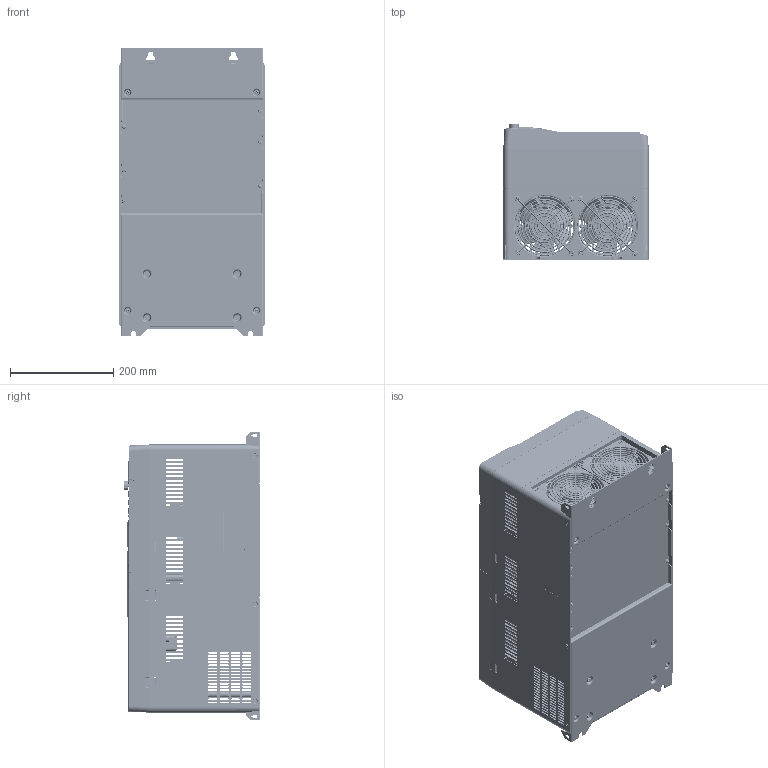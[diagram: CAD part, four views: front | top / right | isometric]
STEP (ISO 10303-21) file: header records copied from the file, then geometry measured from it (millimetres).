
FILE_DESCRIPTION((''),'2;1');
FILE_NAME('00-GD350-01-055G-4_ASM','2024-09-11T16:01:35',('Administrator'),(''),'CREO PARAMETRIC BY PTC INC, 2019080','CREO PARAMETRIC BY PTC INC, 2019080','');
FILE_SCHEMA(('CONFIG_CONTROL_DESIGN'));
Products named in the file (50): 80710015; 80310622; S-M4-ZC; 80310622_ASM; 80780047; 80740140; 2-21-12-123-4C-230HBT; FENGSHANWANG_S; INVT8_034_0058_; INVT8_034_0059_; JP-PCB_; DIANWEIQI_; INVT8_034_0060_; 86410001; INVT8_034_0064_; SHUMAGUAN_; 001_ASM; GD350-01-055G-4-ES_ASM; 80880255; 80810124SY1; 80810124; 80810124SY1_ASM; GB9074_13_M5X12; GB819_1_M4X8; GB9074_8_M4X50; GB9074_13_M8X35; ST5X12; GB9074_8_M4X16; 77340010; GB9074_4_M4X12; GB9074_13_M6X16; ST4X12; PB3X6-H_ZU; GD350-01-055G-4-FS_ASM; 77570616; NZ-M6-ZC; 77570616_ASM; 78400224; 88170762; 80810123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
Assembly tree (125 placements, depth 4):
  00-GD350-01-055G-4_ASM
    80710015
    80310622_ASM
      80310622
      S-M4-ZC  x6
    80780047
    80740140
    GD350-01-055G-4-ES_ASM
      2-21-12-123-4C-230HBT  x2
      FENGSHANWANG_S  x2
      001_ASM
        INVT8_034_0058_
        INVT8_034_0059_
        JP-PCB_
        DIANWEIQI_
        INVT8_034_0060_
        86410001
        INVT8_034_0064_
        SHUMAGUAN_
    80880255
    80810124SY1_ASM
      80810124SY1
      80810124
    GD350-01-055G-4-FS_ASM
      GB9074_13_M5X12  x6
      GB819_1_M4X8  x6
      GB9074_8_M4X50  x4
      GB9074_13_M8X35  x9
      ST5X12  x6
      GB9074_8_M4X16  x2
      77340010
      GB9074_4_M4X12  x23
      GB9074_13_M6X16  x2
      ST4X12  x15
      PB3X6-H_ZU  x4
    77570616_ASM
      77570616
      NZ-M6-ZC  x2
    78400224
    88170762  x2
    80810123
    80710074
    17003-06089_ASM
      17003-06089-3D_B1
      E-MJ0204-100TH
      E-DIN0205-5_08MM-22_1MM-RM
      E-DIN0107-5_08MM-RMD-A
      E-DIN0208-5_08MM-22_1MM-RM
      E-IDC34-ORM1
      E-HEAD0105-4_2MM-TF-A
Bounding box: 284.27 x 263.69 x 560 mm (x, y, z)
Volume: 3548213.3 mm3; surface area: 2841174.1 mm2
Topology: 117 solids, 171 shells, 20195 faces, 55032 edges, 35639 vertices
Faces by surface type: plane 12810, cylinder 4827, torus 810, cone 726, bspline 548, extrusion 223, sphere 219, revolution 32
Entity records: 581808 total; most frequent: CARTESIAN_POINT 140508, ORIENTED_EDGE 94608, DIRECTION 86537, EDGE_CURVE 47310, VECTOR 34749, LINE 34540, VERTEX_POINT 30779, AXIS2_PLACEMENT_3D 25886
